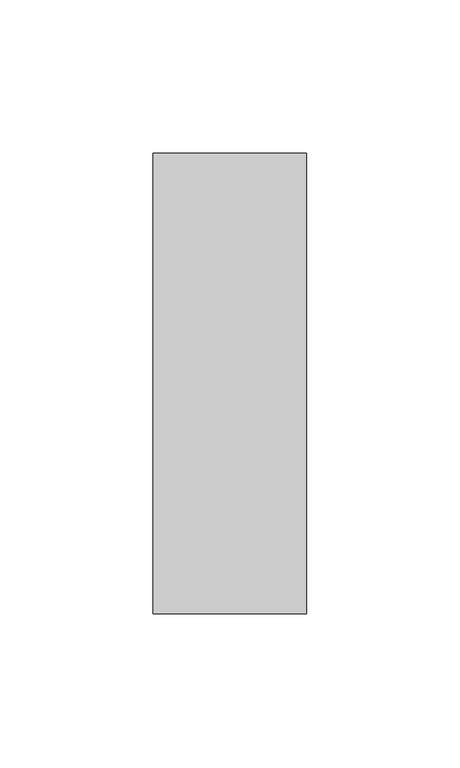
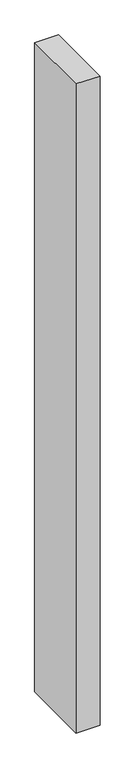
"""IFC4 building model written with IfcOpenShell, lengths in millimetres: member geometry, Прямоугольный импост : 50 x 150 мм."""

import ifcopenshell
import ifcopenshell.guid

model = None  # the IFC model being written
_history = None  # IfcOwnerHistory: only IFC2X3 demands one
_inside = {}  # id of a spatial element -> (the spatial element, [elements in it])
_under = {}  # id of a project, library or spatial element -> (it, [spatial elements below it])
_declared = {}  # id of a project -> (the project, [libraries it declares])
_typed = {}  # id of a type object -> (the type object, [elements of that type])
_made_of = {}  # id of a material, layer set ... -> (it, [elements and type objects made of it])


def new_model(schema):
    """Start an empty IFC model of exactly this schema.

    Asked for "IFC4X3", IfcOpenShell would pick the latest addendum, in which some entities
    have other attributes; the version numbers below select the first issue.
    IFC2X3 requires an IfcOwnerHistory on every rooted entity: one is made here for all.
    """
    global model, _history
    if schema == "IFC4X3":
        model = ifcopenshell.file(schema_version=(4, 3, 0, 0))
    else:
        model = ifcopenshell.file(schema=schema)
    _inside.clear()
    _under.clear()
    _declared.clear()
    _typed.clear()
    _made_of.clear()
    _history = None
    if model.schema == "IFC2X3":
        org = make("IfcOrganization", Name="unknown")
        user = make(
            "IfcPersonAndOrganization",
            ThePerson=make("IfcPerson", FamilyName="unknown"),
            TheOrganization=org,
        )
        app = make(
            "IfcApplication",
            ApplicationDeveloper=org,
            Version="unknown",
            ApplicationFullName="unknown",
            ApplicationIdentifier="unknown",
        )
        _history = make(
            "IfcOwnerHistory",
            OwningUser=user,
            OwningApplication=app,
            ChangeAction="ADDED",
            CreationDate=0,
        )
    return model


def make(cls, **values):
    """One entity of the class cls with the attributes given. An attribute that is None is left unset."""
    return model.create_entity(
        cls, **{name: value for name, value in values.items() if value is not None}
    )


def rooted(cls, **values):
    """An entity with a GlobalId (a new one), such as an element, a storey or a relation."""
    return make(cls, GlobalId=ifcopenshell.guid.new(), OwnerHistory=_history, **values)


def si_unit(unit_type, name, prefix=None):
    """IfcSIUnit, for example si_unit("LENGTHUNIT", "METRE", prefix="MILLI")."""
    return make("IfcSIUnit", UnitType=unit_type, Prefix=prefix, Name=name)


def assignment(units):
    """IfcUnitAssignment: the units of a project."""
    return None if units is None else make("IfcUnitAssignment", Units=units)


def point(xyz):
    """IfcCartesianPoint."""
    return None if xyz is None else make("IfcCartesianPoint", Coordinates=xyz)


def direction(xyz):
    """IfcDirection."""
    return None if xyz is None else make("IfcDirection", DirectionRatios=xyz)


def frame(location, z_axis=None, x_axis=None):
    """IfcAxis2Placement3D, a coordinate frame: its origin and axes. An axis left out is left unset."""
    return make(
        "IfcAxis2Placement3D",
        Location=point(location),
        Axis=direction(z_axis),
        RefDirection=direction(x_axis),
    )


def origin():
    """The frame at (0, 0, 0) with its axes left unset."""
    return frame((0.0, 0.0, 0.0))


def place(relative_to, where):
    """IfcLocalPlacement: puts the frame where relative to a parent placement (None: the world)."""
    return make(
        "IfcLocalPlacement", PlacementRelTo=relative_to, RelativePlacement=where
    )


def context(
    kind, dimensions, precision=None, world=None, true_north=None, identifier=None
):
    """IfcGeometricRepresentationContext, for example the 3D "Model" context."""
    return make(
        "IfcGeometricRepresentationContext",
        ContextIdentifier=identifier,
        ContextType=kind,
        CoordinateSpaceDimension=dimensions,
        Precision=precision,
        WorldCoordinateSystem=world,
        TrueNorth=true_north,
    )


def project(units=None, contexts=None):
    """IfcProject with its units and contexts."""
    return rooted(
        "IfcProject",
        Name="project",
        RepresentationContexts=contexts,
        UnitsInContext=assignment(units),
    )


def spatial(cls, under=None, at=None, **own):
    """A site, building, storey or space (cls), placed at a placement, below another one or the project."""
    s = rooted(cls, ObjectPlacement=at, **own)
    if under is not None:
        _under.setdefault(under.id(), (under, []))[1].append(s)
    return s


def polyline(points):
    """IfcPolyline through the points."""
    return make("IfcPolyline", Points=[point(p) for p in points])


def outline(outer, holes=None, kind="AREA"):
    """IfcArbitraryClosedProfileDef: a profile drawn as a closed curve; with holes, ...WithVoids."""
    if holes is None:
        return make("IfcArbitraryClosedProfileDef", ProfileType=kind, OuterCurve=outer)
    return make(
        "IfcArbitraryProfileDefWithVoids",
        ProfileType=kind,
        OuterCurve=outer,
        InnerCurves=holes,
    )


def extrude(swept, where, along, depth):
    """IfcExtrudedAreaSolid: the profile swept, set in the frame where, extruded along a direction by depth."""
    return make(
        "IfcExtrudedAreaSolid",
        SweptArea=swept,
        Position=where,
        ExtrudedDirection=direction(along),
        Depth=depth,
    )


def shape(context_of_items, identifier, shape_type, items):
    """IfcShapeRepresentation: the items that make up one representation, for example the "Body"."""
    return make(
        "IfcShapeRepresentation",
        ContextOfItems=context_of_items,
        RepresentationIdentifier=identifier,
        RepresentationType=shape_type,
        Items=items,
    )


def source(mapping_origin, context_of_items, identifier, shape_type, items):
    """IfcRepresentationMap: a shape defined once, which mapped items show again and again."""
    return make(
        "IfcRepresentationMap",
        MappingOrigin=mapping_origin,
        MappedRepresentation=shape(context_of_items, identifier, shape_type, items),
    )


def transform(
    local_origin,
    x_axis=None,
    y_axis=None,
    z_axis=None,
    scale=None,
    scale2=None,
    scale3=None,
    uniform=True,
):
    """IfcCartesianTransformationOperator3D, or its non-uniform kind. x_axis, y_axis, z_axis: its Axis1, 2, 3."""
    if uniform:
        return make(
            "IfcCartesianTransformationOperator3D",
            Axis1=direction(x_axis),
            Axis2=direction(y_axis),
            LocalOrigin=point(local_origin),
            Scale=scale,
            Axis3=direction(z_axis),
        )
    return make(
        "IfcCartesianTransformationOperator3DnonUniform",
        Axis1=direction(x_axis),
        Axis2=direction(y_axis),
        LocalOrigin=point(local_origin),
        Scale=scale,
        Axis3=direction(z_axis),
        Scale2=scale2,
        Scale3=scale3,
    )


def mapped(mapping_source, mapping_target):
    """IfcMappedItem: shows the shape of a source again, moved by a transform."""
    return make(
        "IfcMappedItem", MappingSource=mapping_source, MappingTarget=mapping_target
    )


def made_of(thing, what):
    """Note that an element or type object is made of a material, layer set ...; save() writes the relation."""
    if what is not None:
        _made_of.setdefault(what.id(), (what, []))[1].append(thing)
    return thing


def element(
    cls,
    number,
    at=None,
    inside=None,
    cuts=None,
    type_object=None,
    material=None,
    context=None,
    identifier="Body",
    shape_type=None,
    held_by="IfcProductDefinitionShape",
    body=None,
    shapes=None,
    **own,
):
    """One element of the class cls, such as IfcWall. Its Tag is "e" and its number.

    at: its placement. inside: the storey or other place that contains it. cuts: it is an
    opening in that element (IfcRelVoidsElement). A single representation is given by context,
    identifier, shape_type and body (its items); several are given by shapes. held_by: the class
    of the entity that holds the representations. save() writes the other relations.
    """
    e = rooted(cls, Tag="e%d" % number, ObjectPlacement=at, **own)
    if body is not None:
        shapes = [shape(context, identifier, shape_type, body)]
    if shapes is not None:
        e.Representation = make(held_by, Representations=shapes)
    if inside is not None:
        _inside.setdefault(inside.id(), (inside, []))[1].append(e)
    if cuts is not None:
        rooted(
            "IfcRelVoidsElement", RelatingBuildingElement=cuts, RelatedOpeningElement=e
        )
    if type_object is not None:
        _typed.setdefault(type_object.id(), (type_object, []))[1].append(e)
    return made_of(e, material)


def aggregate(whole, parts):
    """IfcRelAggregates: a whole, such as a stair, and the parts it consists of."""
    return rooted("IfcRelAggregates", RelatingObject=whole, RelatedObjects=parts)


def save(model, path):
    """Write the relations noted so far, then the file.

    IfcRelAggregates (storeys below a building ...), IfcRelContainedInSpatialStructure (elements
    in a storey), IfcRelDefinesByType, IfcRelAssociatesMaterial and IfcRelDeclares: one each for
    every whole, place, type object, material and project.
    """
    for whole, parts in _under.values():
        aggregate(whole, parts)
    for where, things in _inside.values():
        rooted(
            "IfcRelContainedInSpatialStructure",
            RelatedElements=things,
            RelatingStructure=where,
        )
    for kind, things in _typed.values():
        rooted("IfcRelDefinesByType", RelatedObjects=things, RelatingType=kind)
    for what, things in _made_of.values():
        rooted("IfcRelAssociatesMaterial", RelatedObjects=things, RelatingMaterial=what)
    for by, libraries in _declared.values():
        rooted("IfcRelDeclares", RelatingContext=by, RelatedDefinitions=libraries)
    model.write(path)


def member_cba38e42(model_context):
    return source(origin(), model_context, "Body", "SweptSolid", [
        extrude(outline(polyline([(25.0, 75.0), (25.0, -75.0), (-25.0, -75.0), (-25.0, 75.0), (25.0, 75.0)])), frame((0.0, 0.0, -1436.4997191), z_axis=(0.0, 0.0, 1.0), x_axis=(1.0, 0.0, 0.0)), (0.0, 0.0, 1.0), 1436.4997191),
    ])


if __name__ == "__main__":
    model = new_model("IFC4")
    model_context = context("Model", 3, world=origin())
    ifc_project = project(units=[si_unit("LENGTHUNIT", "METRE", prefix="MILLI")], contexts=[model_context])
    site = spatial("IfcSite", under=ifc_project)
    building = spatial("IfcBuilding", under=site)
    placement = place(None, origin())
    member_shape = member_cba38e42(model_context)
    element("IfcMember", 1, ObjectType="Прямоугольный импост : 50 x 150 мм", at=placement, inside=building, context=model_context, shape_type="MappedRepresentation", body=[
        mapped(member_shape, transform((0.0, 0.0, 0.0), x_axis=(1.0, 0.0, 0.0), y_axis=(0.0, 1.0, 0.0), z_axis=(0.0, 0.0, 1.0))),
    ])
    save(model, "model.ifc")
